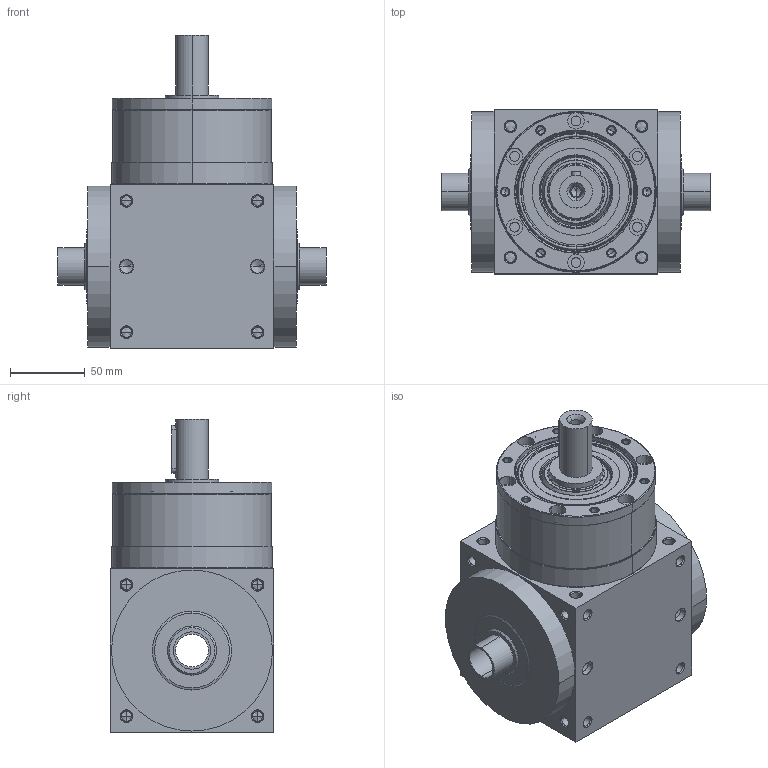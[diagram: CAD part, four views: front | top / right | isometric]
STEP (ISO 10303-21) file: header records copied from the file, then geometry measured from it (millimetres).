
FILE_DESCRIPTION((''),'2;1');
FILE_NAME('ATB110C-1_ASM','2014-07-18T',('D00080'),(''),'PRO/ENGINEER BY PARAMETRIC TECHNOLOGY CORPORATION, 2008170','PRO/ENGINEER BY PARAMETRIC TECHNOLOGY CORPORATION, 2008170','');
FILE_SCHEMA(('CONFIG_CONTROL_DESIGN'));
Length unit declared in the file: millimetre
Products named in the file (6): ATB110C-1; P1820500001; 22400071005; P0904501001; P1208500001; ATB110C-1_ASM
Assembly tree (5 placements, depth 2):
  ATB110C-1_ASM
    ATB110C-1
    P1820500001
    22400071005
    P0904501001
    P1208500001
Bounding box: 180 x 110 x 210 mm (x, y, z)
Volume: 1897200.2 mm3; surface area: 205868 mm2
Topology: 6 solids, 38 shells, 603 faces, 1489 edges, 882 vertices
Faces by surface type: cylinder 274, cone 212, plane 79, torus 38
Entity records: 18398 total; most frequent: CARTESIAN_POINT 4025, DIRECTION 3245, ORIENTED_EDGE 2716, EDGE_CURVE 1421, AXIS2_PLACEMENT_3D 1370, VERTEX_POINT 882, CIRCLE 748, EDGE_LOOP 712
